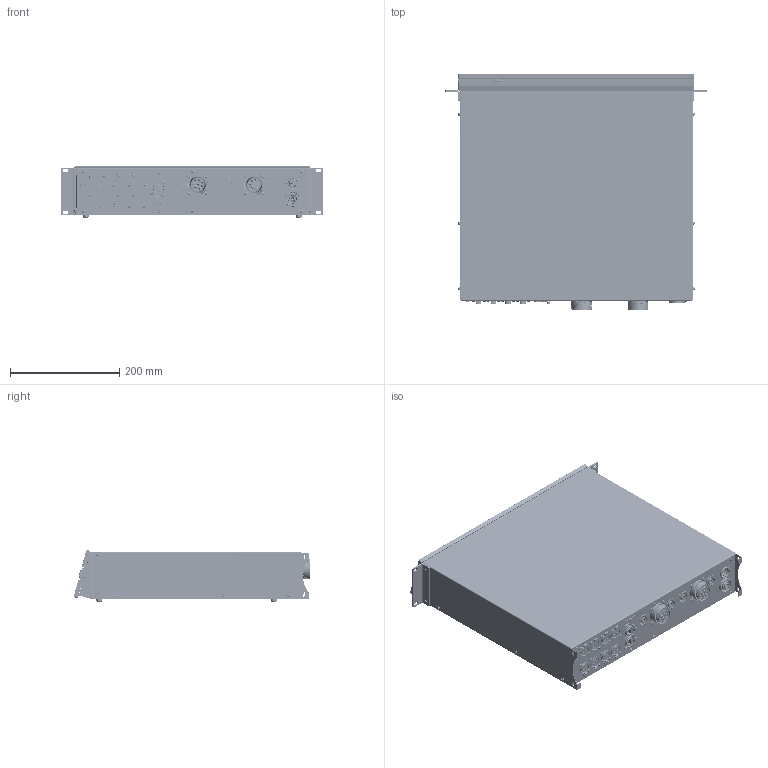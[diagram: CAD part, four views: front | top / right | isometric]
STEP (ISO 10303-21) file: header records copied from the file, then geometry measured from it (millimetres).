
FILE_DESCRIPTION(/* description */ (''),/* implementation_level */ '2;1');
FILE_NAME(/* name */ 'Kommander-KA208LIVE',/* time_stamp */ '2026-03-16T13:14:38+01:00',/* author */ (''),/* organization */ (''),/* preprocessor_version */ 'ST-DEVELOPER v19.2',/* originating_system */ 'Rhino 8.24',/* authorisation */ '');
FILE_SCHEMA (('CONFIG_CONTROL_DESIGN'));
Products named in the file (17): Document; BRD290000; MCP139A16_01; VTA03X10RTIN1_Tapping Screw ISO 14585 - ST2.9 x 9.5-C-N; VTA 2.9X13 STINO_ISO 14586 - ST2.9 x 13-C-N; VTM03X10STIN0_ISO 14581 M3x10x10-N; VTA03X10RTIN1_Tapping Screw ISO 14585 - ST2.9 x 9.5-C-C; MCP147A06_01; VTM03X12BTIN0_ISO 14583 - M3 x 12 x 11 - 4.8-N; hexalobular socket pan head_iso_ISO 14583 - M3 x 6 x 5 - 4.8-N; PWRCONNTFMTRUE1; MCP145A05SAT_03; MCP145A04_01; VTM04X10STIN0; MCP145A06_01_MCP147A02ABS_03; MMFTT04X05; MCP145A02_04
Bounding box: 478.5 x 433.49 x 96 mm (x, y, z)
Volume: 854300.8 mm3; surface area: 1318897.5 mm2
Topology: 116 solids, 325 shells, 16478 faces, 47175 edges, 31063 vertices
Faces by surface type: plane 7930, cylinder 6627, bspline 1921
Entity records: 536392 total; most frequent: CARTESIAN_POINT 203443, ORIENTED_EDGE 80702, EDGE_CURVE 40875, DIRECTION 38390, B_SPLINE_CURVE_WITH_KNOTS 27530, VERTEX_POINT 27283, AXIS2_PLACEMENT_3D 25564, EDGE_LOOP 16589
